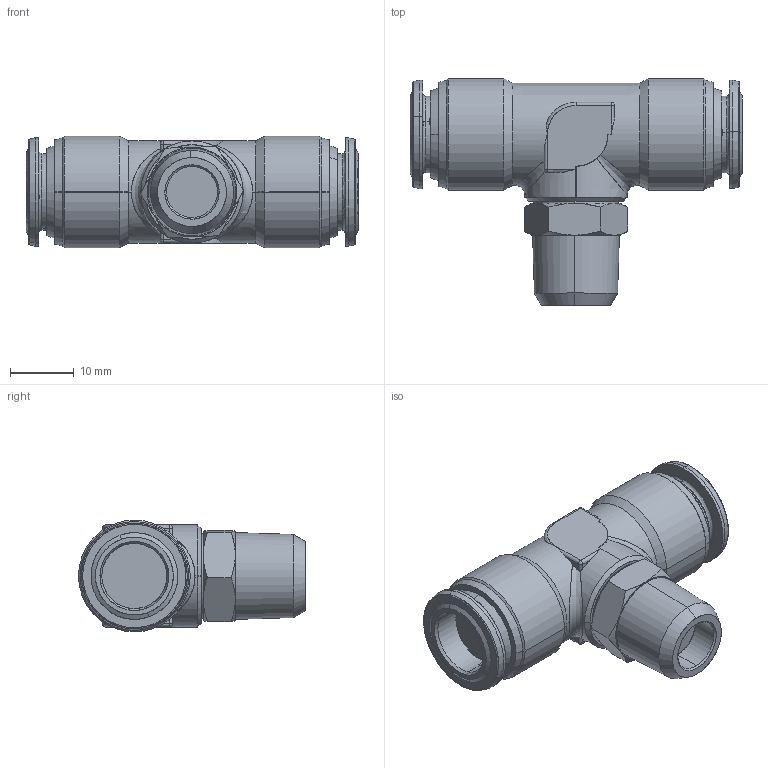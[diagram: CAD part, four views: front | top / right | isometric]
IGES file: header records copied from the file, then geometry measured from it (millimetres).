
Start section: SolidWorks IGES file using analytic representation for surfaces
Global section: file name: K:\Disegni Esecutivi\Serie 60000 inox 316\ASSIEMI_60000\60210\ASSIEMI_PIENI_60210\6021000007.IGS; native system: SolidWorks 2008; preprocessor: SolidWorks 2008; author: cad02; date: 080305.150521; units: millimetre
Bounding box: 52 x 35.55 x 17.5 mm (x, y, z)
Surface area: 5040.4 mm2 (no closed solid volume)
Topology: 0 solids, 0 shells, 174 faces, 2281 edges, 2277 vertices
Faces by surface type: revolution 106, bspline 68
